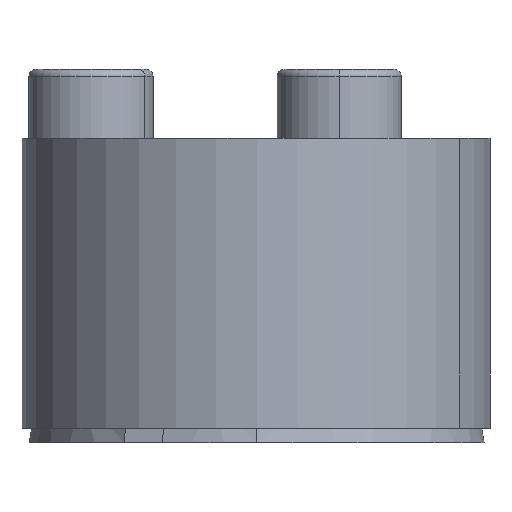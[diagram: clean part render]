
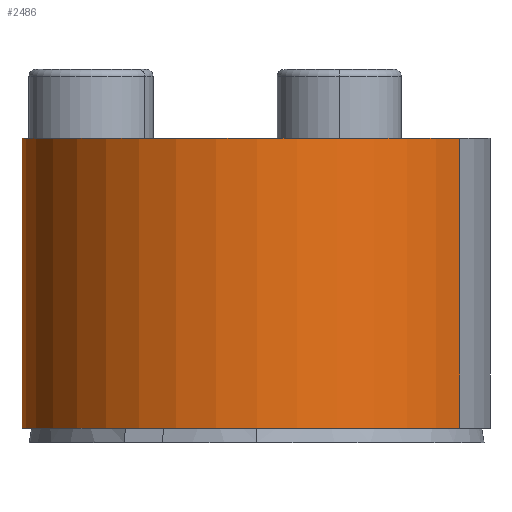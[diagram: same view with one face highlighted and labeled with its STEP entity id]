
A CAD part, left-side view. The second image highlights one B-rep face of the part: STEP entity #2486.
In plain terms, the highlighted cylindrical face has radius 8.5 mm (diameter 17 mm), a partial arc.
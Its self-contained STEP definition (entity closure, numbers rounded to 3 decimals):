
#286 = VERTEX_POINT ( 'NONE', #5026 ) ;
#378 = DIRECTION ( 'NONE',  ( -0.5, -0.866, 0. ) ) ;
#742 = CARTESIAN_POINT ( 'NONE',  ( 0., 0., 11.023 ) ) ;
#811 = CARTESIAN_POINT ( 'NONE',  ( 0., 0., 0.523 ) ) ;
#821 = VECTOR ( 'NONE', #3343, 1000. ) ;
#1031 = ORIENTED_EDGE ( 'NONE', *, *, #4634, .T. ) ;
#1037 = CARTESIAN_POINT ( 'NONE',  ( 4.25, 7.361, 0.523 ) ) ;
#1115 = FACE_OUTER_BOUND ( 'NONE', #4207, .T. ) ;
#1199 = DIRECTION ( 'NONE',  ( 0.5, 0.866, 0. ) ) ;
#1685 = EDGE_CURVE ( 'NONE', #4365, #1905, #4406, .T. ) ;
#1905 = VERTEX_POINT ( 'NONE', #5298 ) ;
#2391 = EDGE_CURVE ( 'NONE', #4365, #5468, #5677, .T. ) ;
#2447 = CARTESIAN_POINT ( 'NONE',  ( -4.25, -7.361, 0.523 ) ) ;
#2486 = ADVANCED_FACE ( 'NONE', ( #1115 ), #4132, .T. ) ;
#2538 = DIRECTION ( 'NONE',  ( 0., 0., -1. ) ) ;
#3062 = AXIS2_PLACEMENT_3D ( 'NONE', #5227, #2538, #5669 ) ;
#3089 = ORIENTED_EDGE ( 'NONE', *, *, #5434, .F. ) ;
#3235 = VECTOR ( 'NONE', #4185, 1000. ) ;
#3343 = DIRECTION ( 'NONE',  ( 0., 0., 1. ) ) ;
#3450 = CARTESIAN_POINT ( 'NONE',  ( -4.25, -7.361, 0.523 ) ) ;
#3506 = DIRECTION ( 'NONE',  ( 0., 0., 1. ) ) ;
#3562 = AXIS2_PLACEMENT_3D ( 'NONE', #811, #3506, #378 ) ;
#3885 = DIRECTION ( 'NONE',  ( 0., 0., -1. ) ) ;
#4065 = AXIS2_PLACEMENT_3D ( 'NONE', #742, #3885, #1199 ) ;
#4132 = CYLINDRICAL_SURFACE ( 'NONE', #3562, 8.5 ) ;
#4185 = DIRECTION ( 'NONE',  ( 0., 0., 1. ) ) ;
#4207 = EDGE_LOOP ( 'NONE', ( #3089, #4830, #5519, #1031 ) ) ;
#4365 = VERTEX_POINT ( 'NONE', #2447 ) ;
#4406 = LINE ( 'NONE', #3450, #821 ) ;
#4445 = LINE ( 'NONE', #1037, #3235 ) ;
#4634 = EDGE_CURVE ( 'NONE', #1905, #286, #5024, .T. ) ;
#4640 = CARTESIAN_POINT ( 'NONE',  ( 4.25, 7.361, 0.523 ) ) ;
#4830 = ORIENTED_EDGE ( 'NONE', *, *, #2391, .F. ) ;
#5024 = CIRCLE ( 'NONE', #4065, 8.5 ) ;
#5026 = CARTESIAN_POINT ( 'NONE',  ( 4.25, 7.361, 11.023 ) ) ;
#5227 = CARTESIAN_POINT ( 'NONE',  ( 0., 0., 0.523 ) ) ;
#5298 = CARTESIAN_POINT ( 'NONE',  ( -4.25, -7.361, 11.023 ) ) ;
#5434 = EDGE_CURVE ( 'NONE', #5468, #286, #4445, .T. ) ;
#5468 = VERTEX_POINT ( 'NONE', #4640 ) ;
#5519 = ORIENTED_EDGE ( 'NONE', *, *, #1685, .T. ) ;
#5669 = DIRECTION ( 'NONE',  ( 0.5, 0.866, 0. ) ) ;
#5677 = CIRCLE ( 'NONE', #3062, 8.5 ) ;
